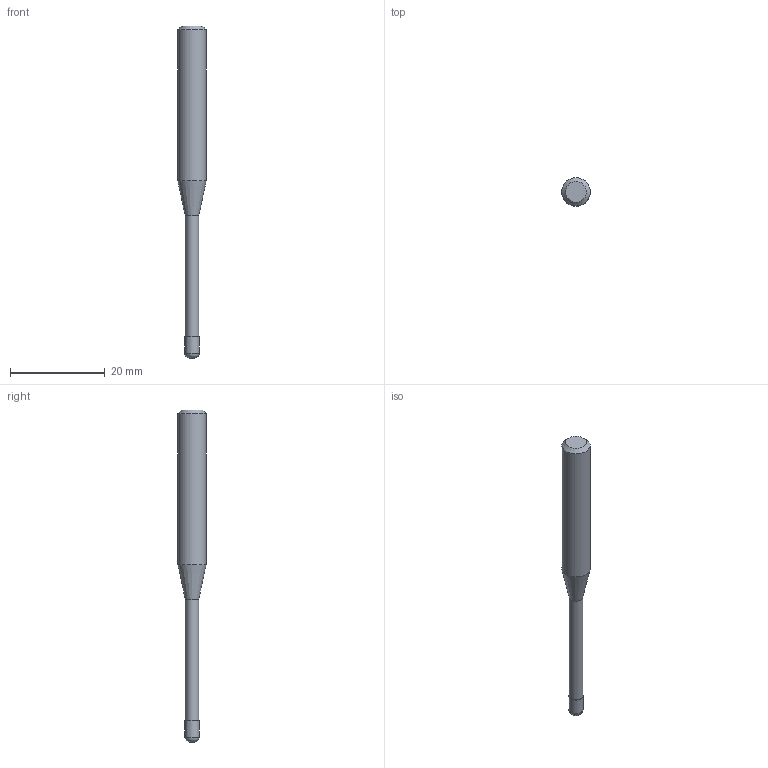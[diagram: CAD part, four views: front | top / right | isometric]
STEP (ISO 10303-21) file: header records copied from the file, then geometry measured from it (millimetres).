
FILE_DESCRIPTION((''),'2;1');
FILE_NAME('C:\Users\nsx150\AppData\Local\Temp\Mastercam 2021\17T8Q8S9EB\TEMP.step','2021-04-21T14:39:39',(''),(''),'STEP Write','Mastercam 2021 ... CNC Software, Inc.','');
FILE_SCHEMA(('AUTOMOTIVE_DESIGN'));
Length unit declared in the file: millimetre
Products named in the file (1): None
Bounding box: 6 x 6 x 70 mm (x, y, z)
Volume: 1227.5 mm3; surface area: 1025 mm2
Topology: 2 solids, 2 shells, 10 faces, 14 edges, 8 vertices
Faces by surface type: plane 4, cylinder 3, cone 2, torus 1
Full cylindrical faces by diameter (mm): 2.85 x1, 3 x1, 6 x1
Entity records: 232 total; most frequent: DIRECTION 40, CARTESIAN_POINT 28, AXIS2_PLACEMENT_3D 20, ORIENTED_EDGE 16, EDGE_LOOP 16, STYLED_ITEM 13, ADVANCED_FACE 10, FACE_BOUND 10
